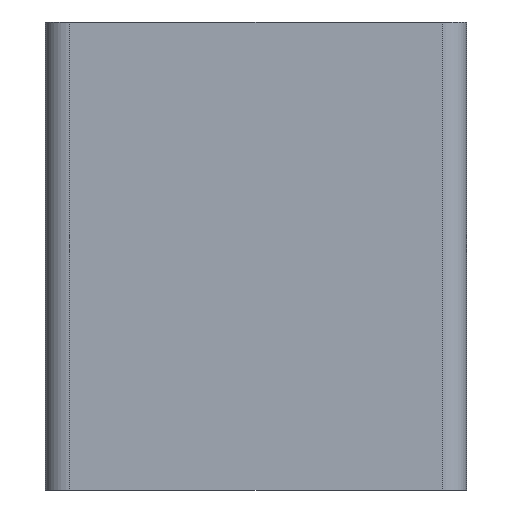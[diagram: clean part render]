
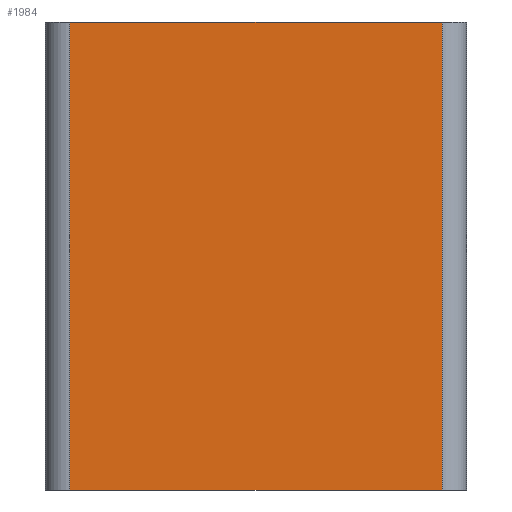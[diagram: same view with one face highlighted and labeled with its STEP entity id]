
A CAD part, left-side view. The second image highlights one B-rep face of the part: STEP entity #1984.
In plain terms, the highlighted planar face has unit normal (-1, 0, 0).
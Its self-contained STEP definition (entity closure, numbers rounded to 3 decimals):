
#93 = EDGE_CURVE ( 'NONE', #926, #911, #767, .T. ) ;
#94 = EDGE_CURVE ( 'NONE', #940, #923, #765, .T. ) ;
#125 = EDGE_CURVE ( 'NONE', #911, #923, #711, .T. ) ;
#145 = EDGE_CURVE ( 'NONE', #926, #940, #674, .T. ) ;
#229 = AXIS2_PLACEMENT_3D ( 'NONE', #398, #310, #409 ) ;
#310 = DIRECTION ( 'NONE',  ( 1., 0., 0. ) ) ;
#398 = CARTESIAN_POINT ( 'NONE',  ( -55., 0., 25. ) ) ;
#403 = PLANE ( 'NONE',  #229 ) ;
#409 = DIRECTION ( 'NONE',  ( 0., 1., 0. ) ) ;
#497 = FACE_OUTER_BOUND ( 'NONE', #1209, .T. ) ;
#671 = VECTOR ( 'NONE', #1612, 1000. ) ;
#674 = LINE ( 'NONE', #1611, #671 ) ;
#707 = VECTOR ( 'NONE', #1561, 1000. ) ;
#711 = LINE ( 'NONE', #1562, #707 ) ;
#760 = VECTOR ( 'NONE', #1496, 1000. ) ;
#762 = VECTOR ( 'NONE', #1494, 1000. ) ;
#765 = LINE ( 'NONE', #1488, #760 ) ;
#767 = LINE ( 'NONE', #1489, #762 ) ;
#911 = VERTEX_POINT ( 'NONE', #1783 ) ;
#923 = VERTEX_POINT ( 'NONE', #1795 ) ;
#926 = VERTEX_POINT ( 'NONE', #1798 ) ;
#940 = VERTEX_POINT ( 'NONE', #1812 ) ;
#1029 = ORIENTED_EDGE ( 'NONE', *, *, #94, .F. ) ;
#1037 = ORIENTED_EDGE ( 'NONE', *, *, #125, .T. ) ;
#1041 = ORIENTED_EDGE ( 'NONE', *, *, #145, .F. ) ;
#1044 = ORIENTED_EDGE ( 'NONE', *, *, #93, .T. ) ;
#1209 = EDGE_LOOP ( 'NONE', ( #1037, #1029, #1041, #1044 ) ) ;
#1488 = CARTESIAN_POINT ( 'NONE',  ( -55., 2.6, 25. ) ) ;
#1489 = CARTESIAN_POINT ( 'NONE',  ( -55., 42.4, 25. ) ) ;
#1494 = DIRECTION ( 'NONE',  ( 0., 0., -1. ) ) ;
#1496 = DIRECTION ( 'NONE',  ( 0., 0., -1. ) ) ;
#1561 = DIRECTION ( 'NONE',  ( 0., -1., 0. ) ) ;
#1562 = CARTESIAN_POINT ( 'NONE',  ( -55., 0., -25. ) ) ;
#1611 = CARTESIAN_POINT ( 'NONE',  ( -55., 0., 25. ) ) ;
#1612 = DIRECTION ( 'NONE',  ( 0., -1., 0. ) ) ;
#1783 = CARTESIAN_POINT ( 'NONE',  ( -55., 42.4, -25. ) ) ;
#1795 = CARTESIAN_POINT ( 'NONE',  ( -55., 2.6, -25. ) ) ;
#1798 = CARTESIAN_POINT ( 'NONE',  ( -55., 42.4, 25. ) ) ;
#1812 = CARTESIAN_POINT ( 'NONE',  ( -55., 2.6, 25. ) ) ;
#1984 = ADVANCED_FACE ( 'NONE', ( #497 ), #403, .F. ) ;
